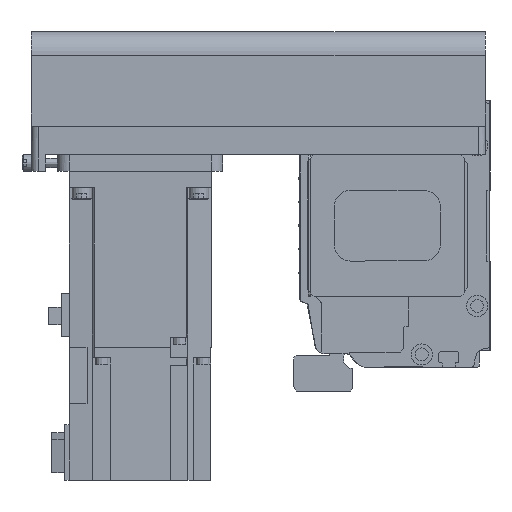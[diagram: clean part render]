
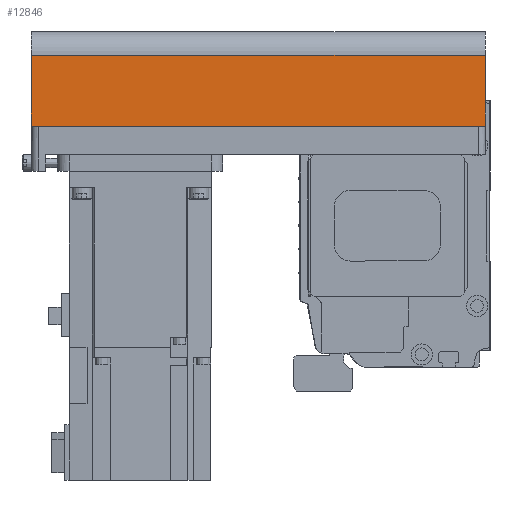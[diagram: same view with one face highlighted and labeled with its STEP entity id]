
A CAD part, left-side view. The second image highlights one B-rep face of the part: STEP entity #12846.
In plain terms, the highlighted planar face has unit normal (-1, 0, 0) as drawn and (0, 1, 0) by its records, which use the part's own axes.
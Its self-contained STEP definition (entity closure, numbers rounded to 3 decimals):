
#2293=ORIENTED_EDGE('',*,*,#5191,.F.);
#2294=ORIENTED_EDGE('',*,*,#5223,.F.);
#2295=ORIENTED_EDGE('',*,*,#5178,.T.);
#2296=ORIENTED_EDGE('',*,*,#5163,.T.);
#5163=EDGE_CURVE('',#6771,#6772,#8065,.T.);
#5178=EDGE_CURVE('',#6783,#6771,#8078,.T.);
#5191=EDGE_CURVE('',#6793,#6772,#8087,.T.);
#5223=EDGE_CURVE('',#6783,#6793,#8099,.T.);
#6771=VERTEX_POINT('',#20093);
#6772=VERTEX_POINT('',#20094);
#6783=VERTEX_POINT('',#20122);
#6793=VERTEX_POINT('',#20149);
#8065=LINE('',#20092,#9293);
#8078=LINE('',#20121,#9306);
#8087=LINE('',#20148,#9315);
#8099=LINE('',#20203,#9327);
#9293=VECTOR('',#16112,1000.);
#9306=VECTOR('',#16133,1000.);
#9315=VECTOR('',#16158,1000.);
#9327=VECTOR('',#16236,1000.);
#10382=EDGE_LOOP('',(#2293,#2294,#2295,#2296));
#11408=FACE_BOUND('',#10382,.T.);
#12267=PLANE('',#13859);
#12846=ADVANCED_FACE('',(#11408),#12267,.T.);
#13859=AXIS2_PLACEMENT_3D('',#20202,#16234,#16235);
#16112=DIRECTION('',(1.,0.,0.));
#16133=DIRECTION('',(0.,0.,1.));
#16158=DIRECTION('',(0.,0.,1.));
#16234=DIRECTION('',(0.,1.,0.));
#16235=DIRECTION('',(0.,0.,1.));
#16236=DIRECTION('',(1.,0.,0.));
#20092=CARTESIAN_POINT('',(-192.,40.,-12.1));
#20093=CARTESIAN_POINT('',(-192.,40.,-12.1));
#20094=CARTESIAN_POINT('',(0.,40.,-12.1));
#20121=CARTESIAN_POINT('',(-192.,40.,-42.));
#20122=CARTESIAN_POINT('',(-192.,40.,-42.));
#20148=CARTESIAN_POINT('',(0.,40.,-42.));
#20149=CARTESIAN_POINT('',(0.,40.,-42.));
#20202=CARTESIAN_POINT('',(-192.,40.,-42.));
#20203=CARTESIAN_POINT('',(-192.,40.,-42.));
